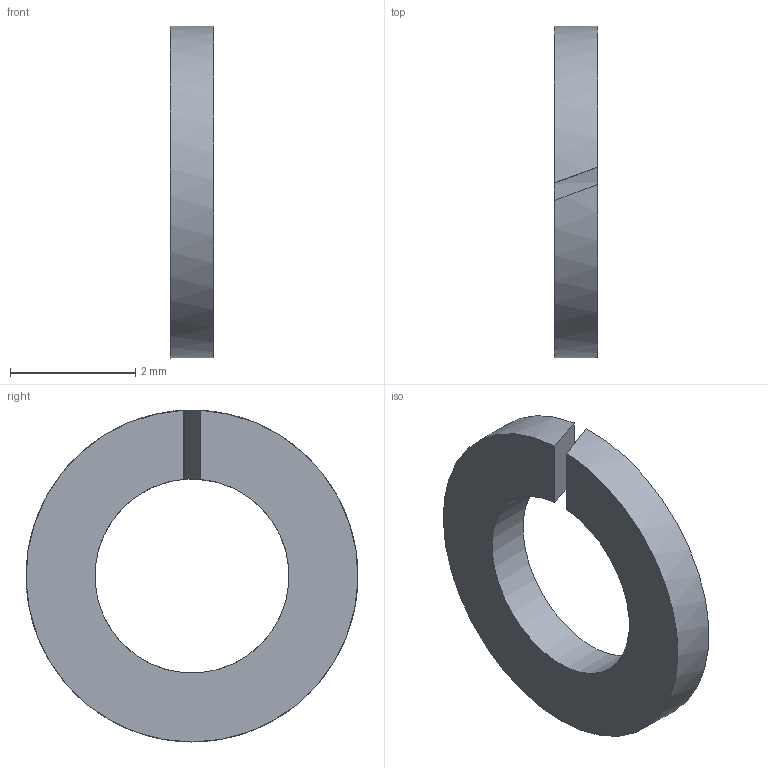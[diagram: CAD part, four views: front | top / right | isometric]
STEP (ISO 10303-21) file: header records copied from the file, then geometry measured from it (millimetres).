
FILE_DESCRIPTION(/* description */ ('스프링 잠금 와셔'),/* implementation_level */ '2;1');
FILE_NAME(/* name */ '',/* time_stamp */ '2025-09-02T10:46:15+09:00',/* author */ ('jhkim'),/* organization */ (''),/* preprocessor_version */ 'ST-DEVELOPER v20.1',/* originating_system */ 'Autodesk Inventor 2026',/* authorisation */ '');
FILE_SCHEMA (('AUTOMOTIVE_DESIGN { 1 0 10303 214 3 1 1 }'));
Length unit declared in the file: millimetre
Products named in the file (1): 스프링 와셔 M3
Bounding box: 0.7 x 5.3 x 5.3 mm (x, y, z)
Volume: 9.9 mm3; surface area: 48.1 mm2
Topology: 1 solids, 1 shells, 6 faces, 12 edges, 8 vertices
Faces by surface type: plane 4, cylinder 2
Entity records: 207 total; most frequent: DIRECTION 34, CARTESIAN_POINT 27, ORIENTED_EDGE 24, AXIS2_PLACEMENT_3D 15, EDGE_CURVE 12, VERTEX_POINT 8, FACE_OUTER_BOUND 6, EDGE_LOOP 6
